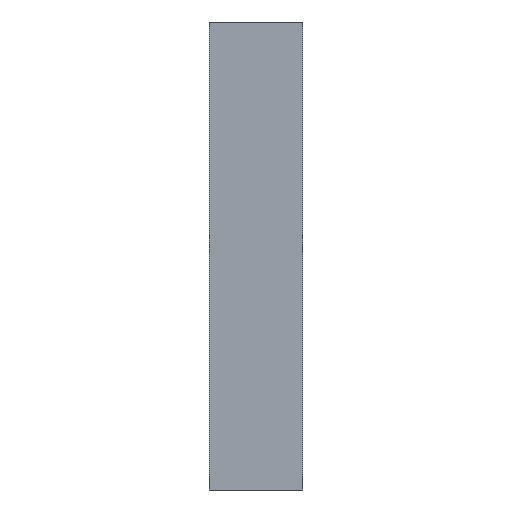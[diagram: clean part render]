
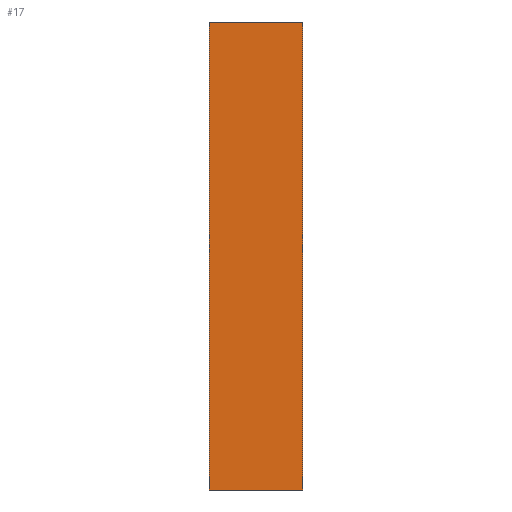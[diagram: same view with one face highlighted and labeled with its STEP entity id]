
A CAD part, left-side view. The second image highlights one B-rep face of the part: STEP entity #17.
In plain terms, the highlighted planar face has unit normal (-1, 0, 0).
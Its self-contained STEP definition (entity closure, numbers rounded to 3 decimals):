
#17 = ADVANCED_FACE('',(#18),#32,.F.);
#18 = FACE_BOUND('',#19,.F.);
#19 = EDGE_LOOP('',(#20,#55,#83,#111));
#20 = ORIENTED_EDGE('',*,*,#21,.F.);
#21 = EDGE_CURVE('',#22,#24,#26,.T.);
#22 = VERTEX_POINT('',#23);
#23 = CARTESIAN_POINT('',(-352.,-76.913,-43.));
#24 = VERTEX_POINT('',#25);
#25 = CARTESIAN_POINT('',(-352.,-76.913,-3.));
#26 = SURFACE_CURVE('',#27,(#31,#43),.PCURVE_S1.);
#27 = LINE('',#28,#29);
#28 = CARTESIAN_POINT('',(-352.,-76.913,-43.));
#29 = VECTOR('',#30,1.);
#30 = DIRECTION('',(0.,0.,1.));
#31 = PCURVE('',#32,#37);
#32 = PLANE('',#33);
#33 = AXIS2_PLACEMENT_3D('',#34,#35,#36);
#34 = CARTESIAN_POINT('',(-352.,-76.913,-43.));
#35 = DIRECTION('',(1.,0.,-0.));
#36 = DIRECTION('',(0.,0.,1.));
#37 = DEFINITIONAL_REPRESENTATION('',(#38),#42);
#38 = LINE('',#39,#40);
#39 = CARTESIAN_POINT('',(0.,0.));
#40 = VECTOR('',#41,1.);
#41 = DIRECTION('',(1.,0.));
#42 = ( GEOMETRIC_REPRESENTATION_CONTEXT(2) 
PARAMETRIC_REPRESENTATION_CONTEXT() REPRESENTATION_CONTEXT('2D SPACE',''
  ) );
#43 = PCURVE('',#44,#49);
#44 = PLANE('',#45);
#45 = AXIS2_PLACEMENT_3D('',#46,#47,#48);
#46 = CARTESIAN_POINT('',(-352.,-76.913,-43.));
#47 = DIRECTION('',(-0.,1.,0.));
#48 = DIRECTION('',(0.,0.,1.));
#49 = DEFINITIONAL_REPRESENTATION('',(#50),#54);
#50 = LINE('',#51,#52);
#51 = CARTESIAN_POINT('',(0.,0.));
#52 = VECTOR('',#53,1.);
#53 = DIRECTION('',(1.,0.));
#54 = ( GEOMETRIC_REPRESENTATION_CONTEXT(2) 
PARAMETRIC_REPRESENTATION_CONTEXT() REPRESENTATION_CONTEXT('2D SPACE',''
  ) );
#55 = ORIENTED_EDGE('',*,*,#56,.T.);
#56 = EDGE_CURVE('',#22,#57,#59,.T.);
#57 = VERTEX_POINT('',#58);
#58 = CARTESIAN_POINT('',(-352.,-68.913,-43.));
#59 = SURFACE_CURVE('',#60,(#64,#71),.PCURVE_S1.);
#60 = LINE('',#61,#62);
#61 = CARTESIAN_POINT('',(-352.,-76.913,-43.));
#62 = VECTOR('',#63,1.);
#63 = DIRECTION('',(-0.,1.,0.));
#64 = PCURVE('',#32,#65);
#65 = DEFINITIONAL_REPRESENTATION('',(#66),#70);
#66 = LINE('',#67,#68);
#67 = CARTESIAN_POINT('',(0.,0.));
#68 = VECTOR('',#69,1.);
#69 = DIRECTION('',(0.,-1.));
#70 = ( GEOMETRIC_REPRESENTATION_CONTEXT(2) 
PARAMETRIC_REPRESENTATION_CONTEXT() REPRESENTATION_CONTEXT('2D SPACE',''
  ) );
#71 = PCURVE('',#72,#77);
#72 = PLANE('',#73);
#73 = AXIS2_PLACEMENT_3D('',#74,#75,#76);
#74 = CARTESIAN_POINT('',(-352.,-76.913,-43.));
#75 = DIRECTION('',(0.,0.,1.));
#76 = DIRECTION('',(1.,0.,-0.));
#77 = DEFINITIONAL_REPRESENTATION('',(#78),#82);
#78 = LINE('',#79,#80);
#79 = CARTESIAN_POINT('',(0.,0.));
#80 = VECTOR('',#81,1.);
#81 = DIRECTION('',(0.,1.));
#82 = ( GEOMETRIC_REPRESENTATION_CONTEXT(2) 
PARAMETRIC_REPRESENTATION_CONTEXT() REPRESENTATION_CONTEXT('2D SPACE',''
  ) );
#83 = ORIENTED_EDGE('',*,*,#84,.T.);
#84 = EDGE_CURVE('',#57,#85,#87,.T.);
#85 = VERTEX_POINT('',#86);
#86 = CARTESIAN_POINT('',(-352.,-68.913,-3.));
#87 = SURFACE_CURVE('',#88,(#92,#99),.PCURVE_S1.);
#88 = LINE('',#89,#90);
#89 = CARTESIAN_POINT('',(-352.,-68.913,-43.));
#90 = VECTOR('',#91,1.);
#91 = DIRECTION('',(0.,0.,1.));
#92 = PCURVE('',#32,#93);
#93 = DEFINITIONAL_REPRESENTATION('',(#94),#98);
#94 = LINE('',#95,#96);
#95 = CARTESIAN_POINT('',(0.,-8.));
#96 = VECTOR('',#97,1.);
#97 = DIRECTION('',(1.,0.));
#98 = ( GEOMETRIC_REPRESENTATION_CONTEXT(2) 
PARAMETRIC_REPRESENTATION_CONTEXT() REPRESENTATION_CONTEXT('2D SPACE',''
  ) );
#99 = PCURVE('',#100,#105);
#100 = PLANE('',#101);
#101 = AXIS2_PLACEMENT_3D('',#102,#103,#104);
#102 = CARTESIAN_POINT('',(-352.,-68.913,-43.));
#103 = DIRECTION('',(-0.,1.,0.));
#104 = DIRECTION('',(0.,0.,1.));
#105 = DEFINITIONAL_REPRESENTATION('',(#106),#110);
#106 = LINE('',#107,#108);
#107 = CARTESIAN_POINT('',(0.,0.));
#108 = VECTOR('',#109,1.);
#109 = DIRECTION('',(1.,0.));
#110 = ( GEOMETRIC_REPRESENTATION_CONTEXT(2) 
PARAMETRIC_REPRESENTATION_CONTEXT() REPRESENTATION_CONTEXT('2D SPACE',''
  ) );
#111 = ORIENTED_EDGE('',*,*,#112,.F.);
#112 = EDGE_CURVE('',#24,#85,#113,.T.);
#113 = SURFACE_CURVE('',#114,(#118,#125),.PCURVE_S1.);
#114 = LINE('',#115,#116);
#115 = CARTESIAN_POINT('',(-352.,-76.913,-3.));
#116 = VECTOR('',#117,1.);
#117 = DIRECTION('',(-0.,1.,0.));
#118 = PCURVE('',#32,#119);
#119 = DEFINITIONAL_REPRESENTATION('',(#120),#124);
#120 = LINE('',#121,#122);
#121 = CARTESIAN_POINT('',(40.,0.));
#122 = VECTOR('',#123,1.);
#123 = DIRECTION('',(0.,-1.));
#124 = ( GEOMETRIC_REPRESENTATION_CONTEXT(2) 
PARAMETRIC_REPRESENTATION_CONTEXT() REPRESENTATION_CONTEXT('2D SPACE',''
  ) );
#125 = PCURVE('',#126,#131);
#126 = PLANE('',#127);
#127 = AXIS2_PLACEMENT_3D('',#128,#129,#130);
#128 = CARTESIAN_POINT('',(-352.,-76.913,-3.));
#129 = DIRECTION('',(0.,0.,1.));
#130 = DIRECTION('',(1.,0.,-0.));
#131 = DEFINITIONAL_REPRESENTATION('',(#132),#136);
#132 = LINE('',#133,#134);
#133 = CARTESIAN_POINT('',(0.,0.));
#134 = VECTOR('',#135,1.);
#135 = DIRECTION('',(0.,1.));
#136 = ( GEOMETRIC_REPRESENTATION_CONTEXT(2) 
PARAMETRIC_REPRESENTATION_CONTEXT() REPRESENTATION_CONTEXT('2D SPACE',''
  ) );
